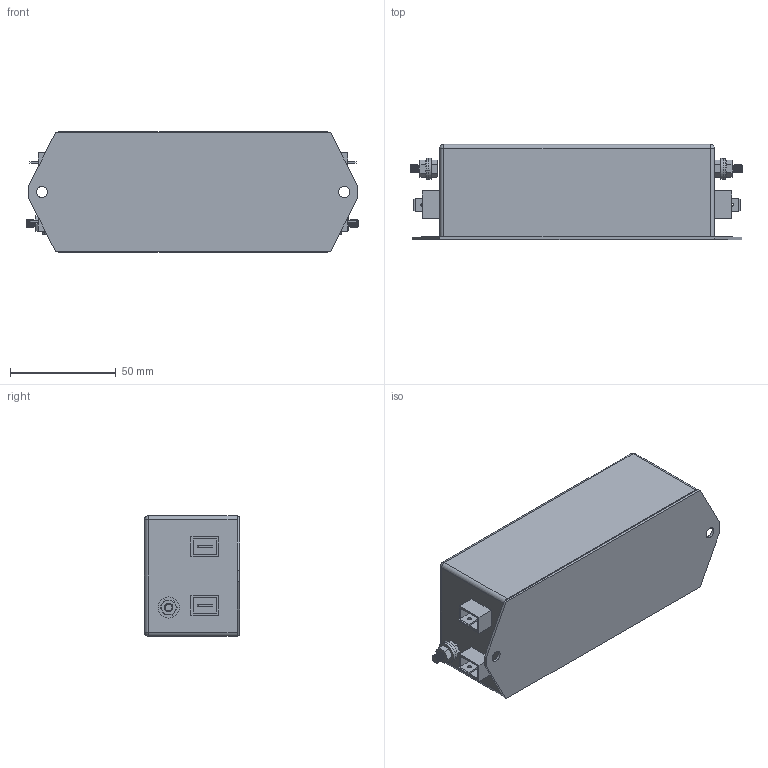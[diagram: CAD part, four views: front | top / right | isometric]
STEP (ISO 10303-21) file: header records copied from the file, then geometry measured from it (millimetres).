
FILE_DESCRIPTION (( 'STEP AP203' ), '1' );
FILE_NAME ('NF-10-1ph-FSE.STEP', '2018-03-05T10:04:46', ( '' ), ( '' ), 'SwSTEP 2.0', 'SolidWorks 2017', '' );
FILE_SCHEMA (( 'CONFIG_CONTROL_DESIGN' ));
Length unit declared in the file: millimetre
Products named in the file (9): NF-10-1ph-FSE; hex screw_am_B18.6.7M - M4 x 0.7 x 10 Indented HHMS --10S; Fast-on shell for dispal only; Fast-on for 1M; M4x10 Earth post; NF-1ph-FSE b(10); hex nut style 1_am_B18.2.4.1M - Hex nut, Style 1,  M4 x 0.7 --D-N; flat washer narrow_am_B18.22M - Plain washer, 4 mm, narrow; Fast on for display only
Assembly tree (13 placements, depth 3):
  NF-10-1ph-FSE
    NF-1ph-FSE b(10)
    Fast on for display only  x4
      Fast-on shell for dispal only
      Fast-on for 1M
    M4x10 Earth post  x2
      flat washer narrow_am_B18.22M - Plain washer, 4 mm, narrow
      hex nut style 1_am_B18.2.4.1M - Hex nut, Style 1,  M4 x 0.7 --D-N
      hex screw_am_B18.6.7M - M4 x 0.7 x 10 Indented HHMS --10S
Bounding box: 157 x 45 x 57 mm (x, y, z)
Volume: 336565 mm3; surface area: 38667.8 mm2
Topology: 17 solids, 17 shells, 462 faces, 1116 edges, 696 vertices
Faces by surface type: plane 190, cone 160, cylinder 108, sphere 4
Entity records: 7303 total; most frequent: CARTESIAN_POINT 1198, DIRECTION 1140, ORIENTED_EDGE 1008, EDGE_CURVE 504, AXIS2_PLACEMENT_3D 446, VERTEX_POINT 312, LINE 248, VECTOR 248
